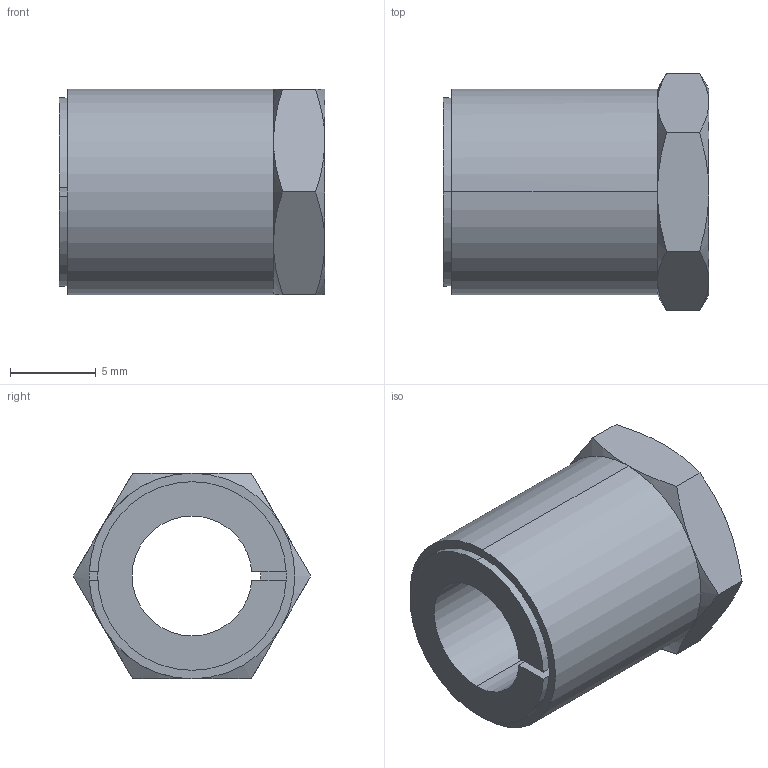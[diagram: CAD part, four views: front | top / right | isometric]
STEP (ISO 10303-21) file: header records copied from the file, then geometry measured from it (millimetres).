
FILE_DESCRIPTION (( 'STEP AP203' ), '1' );
FILE_NAME ('KBS 57 - 7 x 12.STEP', '2015-07-05T18:30:47', ( '' ), ( '' ), 'SwSTEP 2.0', 'SolidWorks 2010', '' );
FILE_SCHEMA (( 'CONFIG_CONTROL_DESIGN' ));
Length unit declared in the file: millimetre
Products named in the file (1): KBS 57 - 7 x 12
Bounding box: 15.5 x 13.86 x 12 mm (x, y, z)
Volume: 1154.4 mm3; surface area: 1169.4 mm2
Topology: 1 solids, 1 shells, 41 faces, 99 edges, 60 vertices
Faces by surface type: plane 16, cone 15, cylinder 10
Entity records: 1349 total; most frequent: CARTESIAN_POINT 333, ORIENTED_EDGE 198, DIRECTION 196, EDGE_CURVE 99, AXIS2_PLACEMENT_3D 81, VERTEX_POINT 60, EDGE_LOOP 43, ADVANCED_FACE 41
